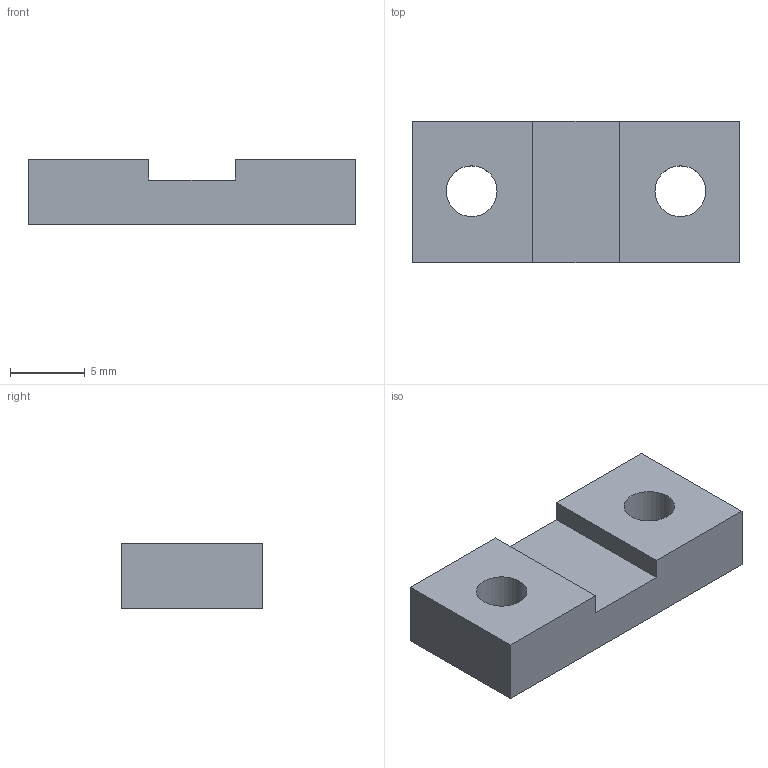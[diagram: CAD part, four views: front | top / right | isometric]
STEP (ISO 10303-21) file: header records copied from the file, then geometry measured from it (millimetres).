
FILE_DESCRIPTION(('Open CASCADE Model'),'2;1');
FILE_NAME('Open CASCADE Shape Model','2026-10-27T10:19:18',('Author'),( 'Open CASCADE'),'Open CASCADE STEP processor 8.0','build123d', 'Unknown');
FILE_SCHEMA(('AUTOMOTIVE_DESIGN { 1 0 10303 214 1 1 1 1 }'));
Length unit declared in the file: millimetre
Products named in the file (2): =>[0:1:1:2]; SOLID
Assembly tree (1 placements, depth 2):
  =>[0:1:1:2]
    SOLID
Bounding box: 22 x 9.5 x 4.4 mm (x, y, z)
Volume: 762.6 mm3; surface area: 763.2 mm2
Topology: 1 solids, 1 shells, 12 faces, 30 edges, 20 vertices
Faces by surface type: plane 10, cylinder 2
Full cylindrical faces by diameter (mm): 3.4 x2
Entity records: 768 total; most frequent: CARTESIAN_POINT 140, DIRECTION 106, LINE 66, VECTOR 66, ORIENTED_EDGE 60, PCURVE 60, DEFINITIONAL_REPRESENTATION 60, EDGE_CURVE 30
